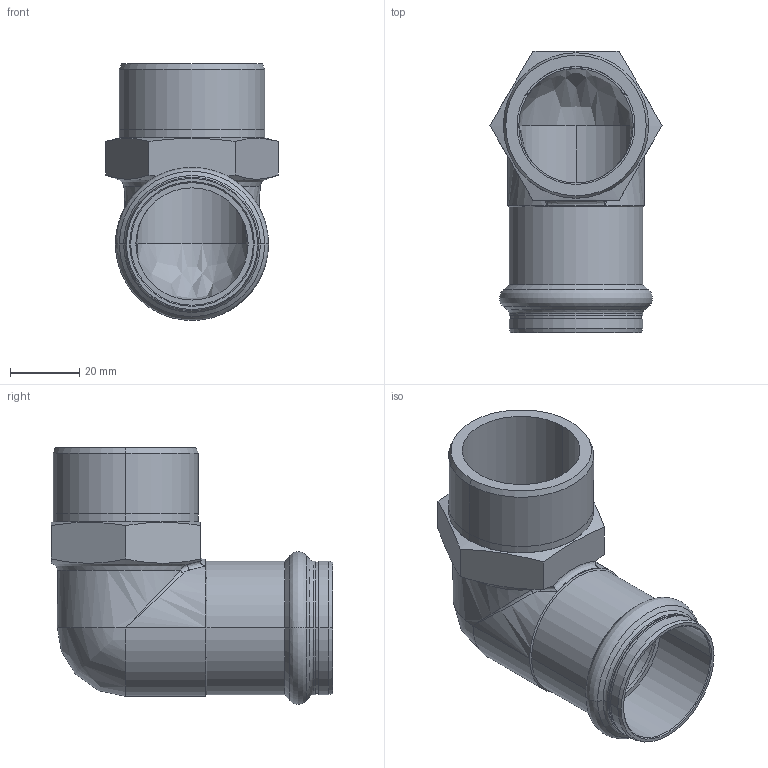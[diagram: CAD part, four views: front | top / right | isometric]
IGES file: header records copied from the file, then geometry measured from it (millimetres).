
Start section: Elysium IGES Interface
Global section: file name: F:\3d modellen sudo\S-Pr VP\SP6092GV\6092GVW35114.igs; native system: CoCreate Modeling 17.00A  17-Jun-2010; preprocessor: CoCreate IGES_3D V2.2; author: Unknown; organization: Unknown; date: 20130124.153202; units: millimetre
Bounding box: 49.65 x 81.2 x 74.05 mm (x, y, z)
Volume: 42455 mm3; surface area: 27230.1 mm2
Topology: 1 solids, 1 shells, 79 faces, 186 edges, 106 vertices
Faces by surface type: bspline 79
